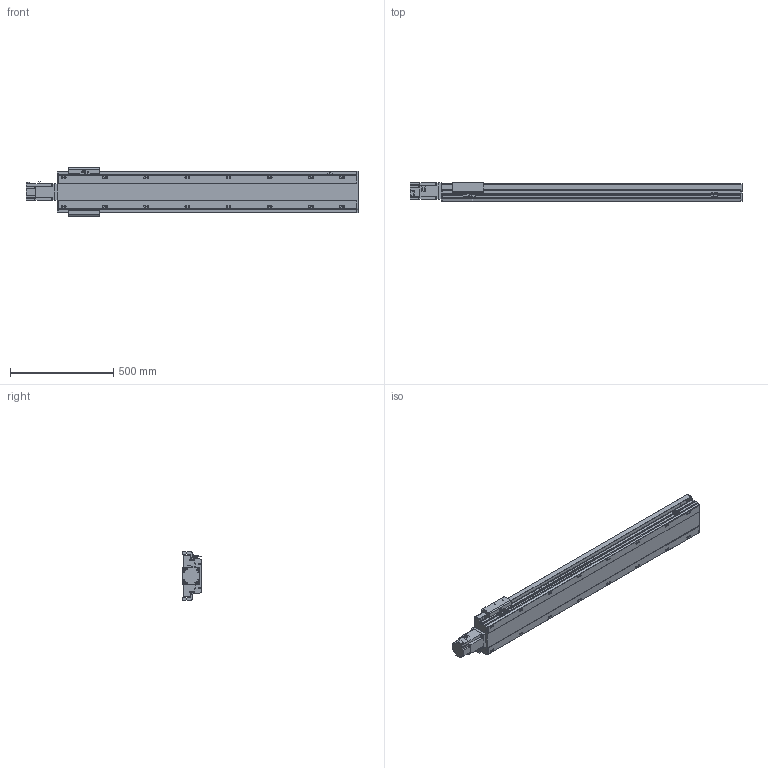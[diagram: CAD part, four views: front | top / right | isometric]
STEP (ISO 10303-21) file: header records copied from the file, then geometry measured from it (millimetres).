
FILE_DESCRIPTION(/* description */ ('STEP AP214'),/* implementation_level */ '2;1');
FILE_NAME(/* name */ 'PSM170-L10-S1200-BC-T75-C1-N(0)',/* time_stamp */ '2022-06-29T08:54:42+02:00',/* author */ ('License CC BY-ND 4.0'),/* organization */ ('CADENAS'),/* preprocessor_version */ 'ST-DEVELOPER v18.102',/* originating_system */ 'PARTsolutions',/* authorisation */ ' ');
FILE_SCHEMA (('AUTOMOTIVE_DESIGN {1 0 10303 214 3 1 1}'));
Length unit declared in the file: millimetre
Products named in the file (8): PSM170-L10-S1200-BC-T75-C1-N(0); PSM-Sensor; PSM140-S100-342.5; T75-p1; PSM170_body2; PSM170_body3; PSM170-S1200_body1; PSM170-L10-S1200-BC-T75-C1-N(0)_dummy
Assembly tree (11 placements, depth 2):
  PSM170-L10-S1200-BC-T75-C1-N(0)
    PSM-Sensor  x3
    PSM140-S100-342.5  x3
    T75-p1
    PSM170_body2
    PSM170_body3
    PSM170-S1200_body1
    PSM170-L10-S1200-BC-T75-C1-N(0)_dummy
Bounding box: 1611.3 x 92 x 233 mm (x, y, z)
Volume: 9485789.8 mm3; surface area: 1833599.7 mm2
Topology: 10 solids, 10 shells, 1115 faces, 2986 edges, 1943 vertices
Faces by surface type: plane 676, cylinder 353, cone 72, torus 14
Full cylindrical faces by diameter (mm): 2.8 x3, 3.08 x1, 4.134 x4, 4.5 x12, 4.6 x3, 5.7 x2, 6 x9, 6.647 x24, 7 x8, 7.6 x4, 8 x8, 8.5 x16, 10 x4, 14 x16, 45 x1, 70 x1
Entity records: 29598 total; most frequent: CARTESIAN_POINT 5558, DIRECTION 4900, ORIENTED_EDGE 4716, EDGE_CURVE 2358, AXIS2_PLACEMENT_3D 1673, VERTEX_POINT 1658, LINE 1554, VECTOR 1554
